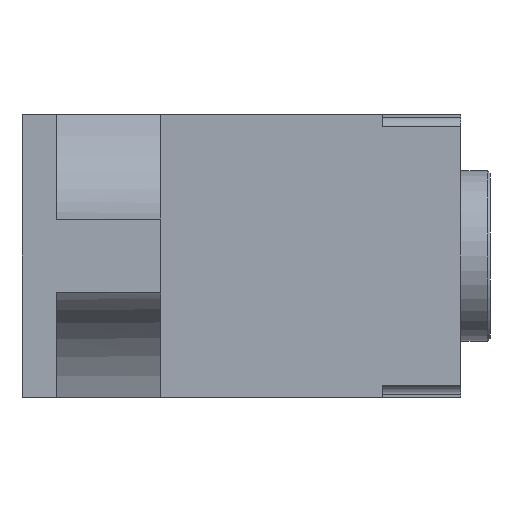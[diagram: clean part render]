
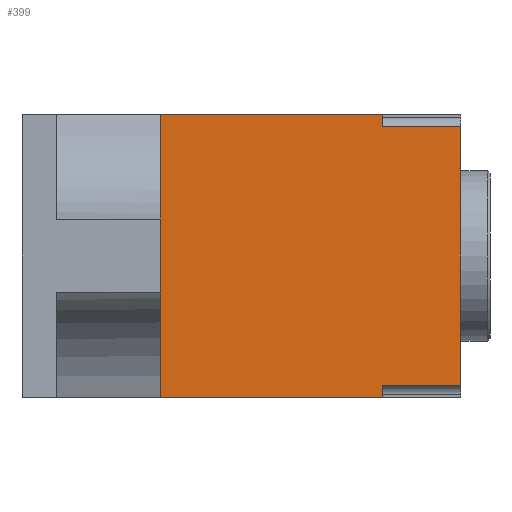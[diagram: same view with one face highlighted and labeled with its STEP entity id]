
A CAD part, front view. The second image highlights one B-rep face of the part: STEP entity #399.
In plain terms, the highlighted planar face has unit normal (0, -1, 0).
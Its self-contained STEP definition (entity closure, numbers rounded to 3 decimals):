
#399 = ADVANCED_FACE( '', ( #867 ), #868, .T. );
#867 = FACE_OUTER_BOUND( '', #1379, .T. );
#868 = PLANE( '', #1380 );
#1379 = EDGE_LOOP( '', ( #2423, #2424, #2425, #2426, #2427, #2428, #2429, #2430, #2431, #2432 ) );
#1380 = AXIS2_PLACEMENT_3D( '', #2433, #2434, #2435 );
#2423 = ORIENTED_EDGE( '', *, *, #2972, .T. );
#2424 = ORIENTED_EDGE( '', *, *, #3095, .F. );
#2425 = ORIENTED_EDGE( '', *, *, #3096, .T. );
#2426 = ORIENTED_EDGE( '', *, *, #2862, .T. );
#2427 = ORIENTED_EDGE( '', *, *, #3097, .T. );
#2428 = ORIENTED_EDGE( '', *, *, #3098, .T. );
#2429 = ORIENTED_EDGE( '', *, *, #3089, .F. );
#2430 = ORIENTED_EDGE( '', *, *, #2768, .F. );
#2431 = ORIENTED_EDGE( '', *, *, #2995, .T. );
#2432 = ORIENTED_EDGE( '', *, *, #3099, .F. );
#2433 = CARTESIAN_POINT( '', ( 90., -25., 29. ) );
#2434 = DIRECTION( '', ( 0., -1., 0. ) );
#2435 = DIRECTION( '', ( 0., 0., -1. ) );
#2768 = EDGE_CURVE( '', #3280, #3282, #3283, .T. );
#2862 = EDGE_CURVE( '', #3433, #3434, #3435, .T. );
#2972 = EDGE_CURVE( '', #3606, #3607, #3608, .T. );
#2995 = EDGE_CURVE( '', #3280, #3639, #3640, .T. );
#3089 = EDGE_CURVE( '', #3282, #3749, #3750, .T. );
#3095 = EDGE_CURVE( '', #3756, #3607, #3757, .T. );
#3096 = EDGE_CURVE( '', #3756, #3433, #3758, .T. );
#3097 = EDGE_CURVE( '', #3434, #3669, #3759, .T. );
#3098 = EDGE_CURVE( '', #3669, #3749, #3760, .T. );
#3099 = EDGE_CURVE( '', #3606, #3639, #3761, .T. );
#3280 = VERTEX_POINT( '', #4024 );
#3282 = VERTEX_POINT( '', #4027 );
#3283 = LINE( '', #4028, #4029 );
#3433 = VERTEX_POINT( '', #4221 );
#3434 = VERTEX_POINT( '', #4222 );
#3435 = LINE( '', #4223, #4224 );
#3606 = VERTEX_POINT( '', #4489 );
#3607 = VERTEX_POINT( '', #4490 );
#3608 = LINE( '', #4491, #4492 );
#3639 = VERTEX_POINT( '', #4534 );
#3640 = LINE( '', #4535, #4536 );
#3669 = VERTEX_POINT( '', #4607 );
#3749 = VERTEX_POINT( '', #4720 );
#3750 = LINE( '', #4721, #4722 );
#3756 = VERTEX_POINT( '', #4732 );
#3757 = LINE( '', #4733, #4734 );
#3758 = LINE( '', #4735, #4736 );
#3759 = LINE( '', #4737, #4738 );
#3760 = LINE( '', #4739, #4740 );
#3761 = LINE( '', #4741, #4742 );
#4024 = CARTESIAN_POINT( '', ( 74., -25., -26.5 ) );
#4027 = CARTESIAN_POINT( '', ( 74., -25., -29. ) );
#4028 = CARTESIAN_POINT( '', ( 74., -25., -28.5 ) );
#4029 = VECTOR( '', #4894, 1000. );
#4221 = CARTESIAN_POINT( '', ( 28.5, -25., 29. ) );
#4222 = CARTESIAN_POINT( '', ( 28.5, -25., 8.845 ) );
#4223 = CARTESIAN_POINT( '', ( 28.5, -25., 29. ) );
#4224 = VECTOR( '', #5015, 1000. );
#4489 = CARTESIAN_POINT( '', ( 90., -25., 26.5 ) );
#4490 = CARTESIAN_POINT( '', ( 74., -25., 26.5 ) );
#4491 = CARTESIAN_POINT( '', ( 74., -25., 26.5 ) );
#4492 = VECTOR( '', #5153, 1000. );
#4534 = CARTESIAN_POINT( '', ( 90., -25., -26.5 ) );
#4535 = CARTESIAN_POINT( '', ( 74., -25., -26.5 ) );
#4536 = VECTOR( '', #5177, 1000. );
#4607 = CARTESIAN_POINT( '', ( 28.5, -25., -8.845 ) );
#4720 = CARTESIAN_POINT( '', ( 28.5, -25., -29. ) );
#4721 = CARTESIAN_POINT( '', ( 90., -25., -29. ) );
#4722 = VECTOR( '', #5263, 1000. );
#4732 = CARTESIAN_POINT( '', ( 74., -25., 29. ) );
#4733 = CARTESIAN_POINT( '', ( 74., -25., -28.5 ) );
#4734 = VECTOR( '', #5268, 1000. );
#4735 = CARTESIAN_POINT( '', ( 90., -25., 29. ) );
#4736 = VECTOR( '', #5269, 1000. );
#4737 = CARTESIAN_POINT( '', ( 28.5, -25., 29. ) );
#4738 = VECTOR( '', #5270, 1000. );
#4739 = CARTESIAN_POINT( '', ( 28.5, -25., 29. ) );
#4740 = VECTOR( '', #5271, 1000. );
#4741 = CARTESIAN_POINT( '', ( 90., -25., 29. ) );
#4742 = VECTOR( '', #5272, 1000. );
#4894 = DIRECTION( '', ( 0., 0., -1. ) );
#5015 = DIRECTION( '', ( 0., 0., -1. ) );
#5153 = DIRECTION( '', ( -1., 0., 0. ) );
#5177 = DIRECTION( '', ( 1., 0., 0. ) );
#5263 = DIRECTION( '', ( -1., 0., 0. ) );
#5268 = DIRECTION( '', ( 0., 0., -1. ) );
#5269 = DIRECTION( '', ( -1., 0., 0. ) );
#5270 = DIRECTION( '', ( 0., 0., -1. ) );
#5271 = DIRECTION( '', ( 0., 0., -1. ) );
#5272 = DIRECTION( '', ( 0., 0., -1. ) );
